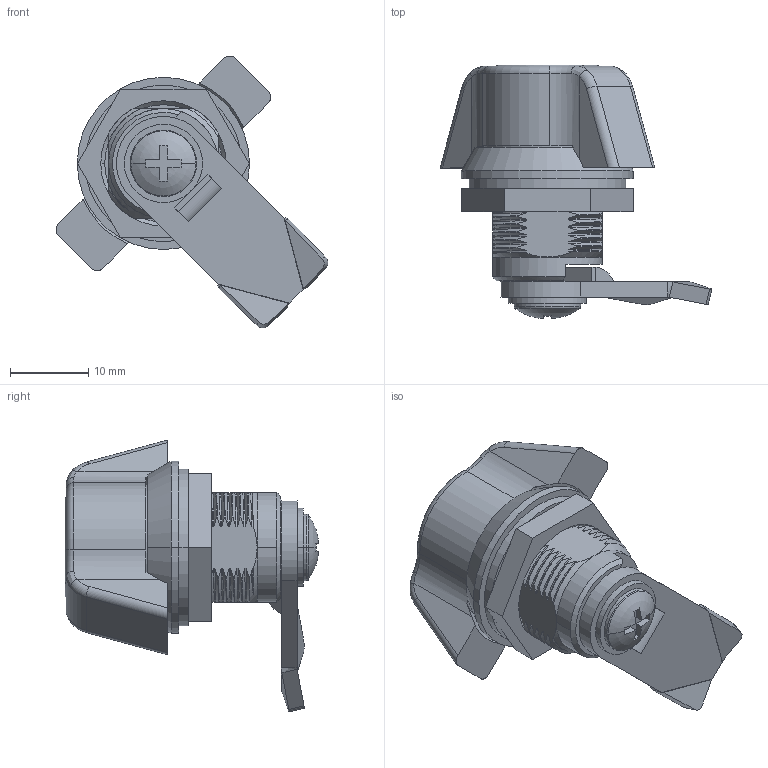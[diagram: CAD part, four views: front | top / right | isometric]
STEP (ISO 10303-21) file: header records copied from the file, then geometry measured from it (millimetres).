
FILE_DESCRIPTION((''),'2;1');
FILE_NAME('ASSEMBLY_ASM','2016-07-06T',('master'),(''),'PRO/ENGINEER BY PARAMETRIC TECHNOLOGY CORPORATION, 2009060','PRO/ENGINEER BY PARAMETRIC TECHNOLOGY CORPORATION, 2009060','');
FILE_SCHEMA(('CONFIG_CONTROL_DESIGN'));
Length unit declared in the file: millimetre
Products named in the file (17): HOUSING; HANDLE; CROSSBAR; INSERT; COVER; STATOR; LEAF1_5; LEAF1_0; LEAF2; INSERT-ZU_ASM; CAM; WASHER; SCREW; NUT-M16X3; O-RING; GASKET; ASSEMBLY_ASM
Assembly tree (16 placements, depth 3):
  ASSEMBLY_ASM
    HOUSING
    HANDLE
    CROSSBAR
    INSERT-ZU_ASM
      INSERT
      COVER
      STATOR
      LEAF1_5
      LEAF1_0
      LEAF2
    CAM
    WASHER
    SCREW
    NUT-M16X3
    O-RING
    GASKET
Bounding box: 34.73 x 32.36 x 34.73 mm (x, y, z)
Volume: 7710.3 mm3; surface area: 8692.7 mm2
Topology: 15 solids, 15 shells, 562 faces, 1523 edges, 993 vertices
Faces by surface type: plane 259, cylinder 136, bspline 118, torus 26, cone 15, sphere 8
Entity records: 45236 total; most frequent: CARTESIAN_POINT 31358, ORIENTED_EDGE 3046, DIRECTION 2501, EDGE_CURVE 1523, VERTEX_POINT 994, AXIS2_PLACEMENT_3D 841, VECTOR 819, LINE 819
